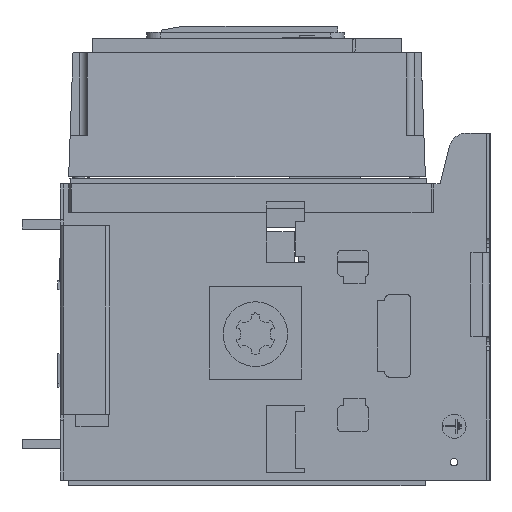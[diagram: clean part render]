
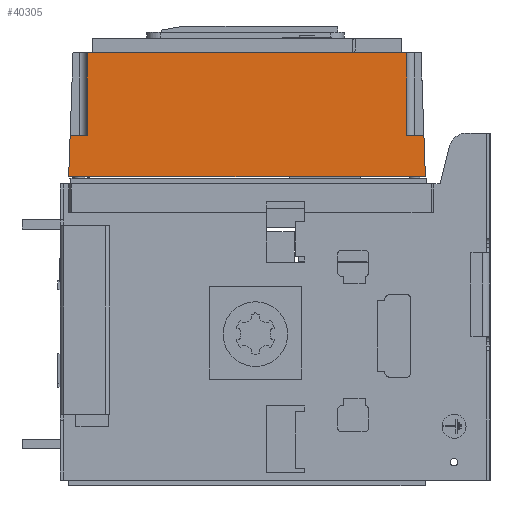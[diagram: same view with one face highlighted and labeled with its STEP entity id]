
A CAD part, left-side view. The second image highlights one B-rep face of the part: STEP entity #40305.
In plain terms, the highlighted planar face has unit normal (-0.999, 0, 0.035).
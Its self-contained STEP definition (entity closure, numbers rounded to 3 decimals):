
#8061=DIRECTION('',(0.,1.,0.));
#8062=VECTOR('',#8061,267.);
#8063=CARTESIAN_POINT('',(25.614,69.5,361.5));
#8064=LINE('',#8063,#8062);
#10196=DIRECTION('',(0.,1.,0.));
#10197=VECTOR('',#10196,14.295);
#10198=CARTESIAN_POINT('',(23.205,55.205,292.5));
#10199=LINE('',#10198,#10197);
#10215=DIRECTION('',(0.,1.,0.));
#10216=VECTOR('',#10215,298.);
#10217=CARTESIAN_POINT('',(22.,54.,258.));
#10218=LINE('',#10217,#10216);
#10219=DIRECTION('',(0.035,-0.035,0.999));
#10220=VECTOR('',#10219,34.542);
#10221=CARTESIAN_POINT('',(22.,352.,258.));
#10222=LINE('',#10221,#10220);
#10223=DIRECTION('',(-0.035,-0.035,-0.999));
#10224=VECTOR('',#10223,34.542);
#10225=CARTESIAN_POINT('',(23.205,55.205,292.5));
#10226=LINE('',#10225,#10224);
#10227=DIRECTION('',(0.,1.,0.));
#10228=VECTOR('',#10227,14.295);
#10229=CARTESIAN_POINT('',(23.205,336.5,292.5));
#10230=LINE('',#10229,#10228);
#10270=DIRECTION('',(-0.035,0.,-0.999));
#10271=VECTOR('',#10270,69.042);
#10272=CARTESIAN_POINT('',(25.614,336.5,361.5));
#10273=LINE('',#10272,#10271);
#10296=DIRECTION('',(0.035,0.,0.999));
#10297=VECTOR('',#10296,69.042);
#10298=CARTESIAN_POINT('',(23.205,69.5,292.5));
#10299=LINE('',#10298,#10297);
#16477=CARTESIAN_POINT('',(22.,352.,258.));
#16479=VERTEX_POINT('',#16477);
#16481=CARTESIAN_POINT('',(22.,54.,258.));
#16482=VERTEX_POINT('',#16481);
#16555=CARTESIAN_POINT('',(23.205,350.795,292.5));
#16556=VERTEX_POINT('',#16555);
#16589=CARTESIAN_POINT('',(23.205,55.205,292.5));
#16590=VERTEX_POINT('',#16589);
#16780=CARTESIAN_POINT('',(25.614,69.5,361.5));
#16781=VERTEX_POINT('',#16780);
#16782=CARTESIAN_POINT('',(25.614,336.5,361.5));
#16783=VERTEX_POINT('',#16782);
#17413=CARTESIAN_POINT('',(23.205,69.5,292.5));
#17414=VERTEX_POINT('',#17413);
#17421=CARTESIAN_POINT('',(23.205,336.5,292.5));
#17422=VERTEX_POINT('',#17421);
#40287=CARTESIAN_POINT('',(25.614,352.,361.5));
#40288=DIRECTION('',(0.999,0.,-0.035));
#40289=DIRECTION('',(-0.035,0.,-0.999));
#40290=AXIS2_PLACEMENT_3D('',#40287,#40288,#40289);
#40291=PLANE('',#40290);
#40292=ORIENTED_EDGE('',*,*,#34996,.T.);
#40293=ORIENTED_EDGE('',*,*,#35107,.T.);
#40295=ORIENTED_EDGE('',*,*,#40294,.F.);
#40297=ORIENTED_EDGE('',*,*,#40296,.F.);
#40298=ORIENTED_EDGE('',*,*,#35984,.F.);
#40300=ORIENTED_EDGE('',*,*,#40299,.F.);
#40301=ORIENTED_EDGE('',*,*,#40263,.F.);
#40302=ORIENTED_EDGE('',*,*,#35178,.T.);
#40303=EDGE_LOOP('',(#40292,#40293,#40295,#40297,#40298,#40300,#40301,#40302));
#40304=FACE_OUTER_BOUND('',#40303,.F.);
#34996=EDGE_CURVE('',#16482,#16479,#10218,.T.);
#35107=EDGE_CURVE('',#16479,#16556,#10222,.T.);
#35178=EDGE_CURVE('',#16590,#16482,#10226,.T.);
#35984=EDGE_CURVE('',#16781,#16783,#8064,.T.);
#40263=EDGE_CURVE('',#16590,#17414,#10199,.T.);
#40294=EDGE_CURVE('',#17422,#16556,#10230,.T.);
#40296=EDGE_CURVE('',#16783,#17422,#10273,.T.);
#40299=EDGE_CURVE('',#17414,#16781,#10299,.T.);
#40305=ADVANCED_FACE('',(#40304),#40291,.F.);
